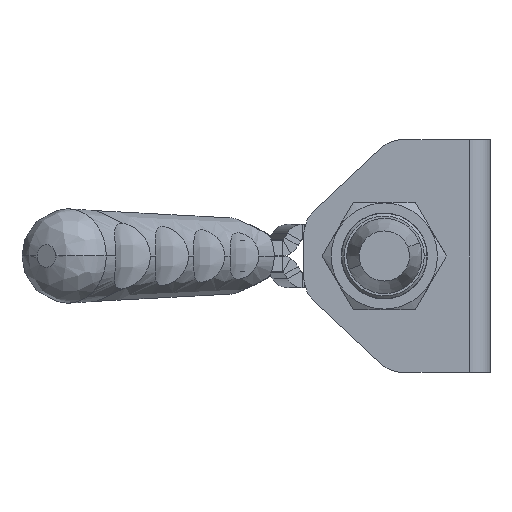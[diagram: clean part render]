
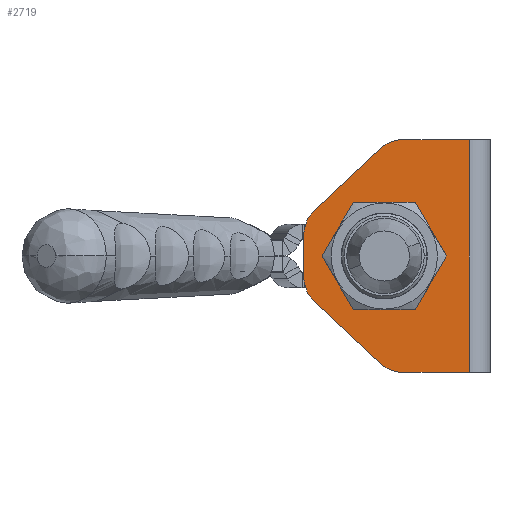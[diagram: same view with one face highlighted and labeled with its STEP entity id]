
A CAD part, left-side view. The second image highlights one B-rep face of the part: STEP entity #2719.
In plain terms, the highlighted planar face has unit normal (-1, 0, 0).
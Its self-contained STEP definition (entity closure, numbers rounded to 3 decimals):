
#95 = CARTESIAN_POINT ( 'NONE',  ( 23.1, 24.495, 0. ) ) ;
#310 = CARTESIAN_POINT ( 'NONE',  ( 23.1, 19.04, 32.5 ) ) ;
#413 = FACE_OUTER_BOUND ( 'NONE', #29150, .T. ) ;
#629 = ORIENTED_EDGE ( 'NONE', *, *, #8376, .T. ) ;
#1167 = ORIENTED_EDGE ( 'NONE', *, *, #22014, .T. ) ;
#1355 = ORIENTED_EDGE ( 'NONE', *, *, #32328, .T. ) ;
#1371 = CIRCLE ( 'NONE', #10941, 10. ) ;
#1624 = DIRECTION ( 'NONE',  ( 0., 1., 0. ) ) ;
#1810 = EDGE_LOOP ( 'NONE', ( #1167, #24160 ) ) ;
#2519 = VERTEX_POINT ( 'NONE', #21604 ) ;
#2719 = ADVANCED_FACE ( 'NONE', ( #413, #5414 ), #25605, .T. ) ;
#2920 = ORIENTED_EDGE ( 'NONE', *, *, #21854, .T. ) ;
#2967 = ORIENTED_EDGE ( 'NONE', *, *, #25104, .T. ) ;
#3250 = CARTESIAN_POINT ( 'NONE',  ( 23.1, 36.995, 0. ) ) ;
#3839 = CARTESIAN_POINT ( 'NONE',  ( 23.1, 24.495, 0. ) ) ;
#4344 = ORIENTED_EDGE ( 'NONE', *, *, #16219, .T. ) ;
#4504 = EDGE_CURVE ( 'NONE', #2519, #6046, #32535, .T. ) ;
#4900 = DIRECTION ( 'NONE',  ( 0., 0., -1. ) ) ;
#4989 = EDGE_CURVE ( 'NONE', #9766, #26091, #17280, .T. ) ;
#5414 = FACE_BOUND ( 'NONE', #1810, .T. ) ;
#5594 = CARTESIAN_POINT ( 'NONE',  ( 23.1, 19.04, -32.5 ) ) ;
#6046 = VERTEX_POINT ( 'NONE', #26337 ) ;
#6074 = ORIENTED_EDGE ( 'NONE', *, *, #19659, .F. ) ;
#6098 = VERTEX_POINT ( 'NONE', #11316 ) ;
#7182 = DIRECTION ( 'NONE',  ( 0., -0.73, -0.684 ) ) ;
#7404 = LINE ( 'NONE', #27761, #22296 ) ;
#7788 = VECTOR ( 'NONE', #7182, 1000. ) ;
#8221 = DIRECTION ( 'NONE',  ( 1., 0., 0. ) ) ;
#8376 = EDGE_CURVE ( 'NONE', #27093, #6098, #7404, .T. ) ;
#8547 = CIRCLE ( 'NONE', #13338, 10. ) ;
#8553 = EDGE_CURVE ( 'NONE', #10276, #16700, #12149, .T. ) ;
#8856 = DIRECTION ( 'NONE',  ( -1., 0., 0. ) ) ;
#9077 = VECTOR ( 'NONE', #29558, 1000. ) ;
#9118 = CARTESIAN_POINT ( 'NONE',  ( 23.1, 36.995, 5.668 ) ) ;
#9286 = CARTESIAN_POINT ( 'NONE',  ( 23.1, 24.495, 0. ) ) ;
#9683 = CARTESIAN_POINT ( 'NONE',  ( 23.1, 43.834, -12.963 ) ) ;
#9766 = VERTEX_POINT ( 'NONE', #29162 ) ;
#10013 = ORIENTED_EDGE ( 'NONE', *, *, #13121, .T. ) ;
#10276 = VERTEX_POINT ( 'NONE', #27390 ) ;
#10886 = LINE ( 'NONE', #16233, #28872 ) ;
#10941 = AXIS2_PLACEMENT_3D ( 'NONE', #13859, #8856, #18378 ) ;
#10998 = VERTEX_POINT ( 'NONE', #26645 ) ;
#11074 = VERTEX_POINT ( 'NONE', #12110 ) ;
#11079 = DIRECTION ( 'NONE',  ( -1., 0., 0. ) ) ;
#11208 = DIRECTION ( 'NONE',  ( 0., 0., -1. ) ) ;
#11316 = CARTESIAN_POINT ( 'NONE',  ( 23.1, 46.995, -5.668 ) ) ;
#11603 = DIRECTION ( 'NONE',  ( 1., 0., 0. ) ) ;
#12103 = DIRECTION ( 'NONE',  ( -1., 0., 0. ) ) ;
#12110 = CARTESIAN_POINT ( 'NONE',  ( 23.1, 0.75, 32.5 ) ) ;
#12149 = CIRCLE ( 'NONE', #15359, 12.5 ) ;
#13121 = EDGE_CURVE ( 'NONE', #29616, #10998, #29254, .T. ) ;
#13338 = AXIS2_PLACEMENT_3D ( 'NONE', #13426, #11079, #20779 ) ;
#13426 = CARTESIAN_POINT ( 'NONE',  ( 23.1, 19.04, 22.5 ) ) ;
#13859 = CARTESIAN_POINT ( 'NONE',  ( 23.1, 36.995, -5.668 ) ) ;
#13950 = ORIENTED_EDGE ( 'NONE', *, *, #4989, .T. ) ;
#15359 = AXIS2_PLACEMENT_3D ( 'NONE', #3839, #8221, #19181 ) ;
#15495 = ORIENTED_EDGE ( 'NONE', *, *, #4504, .T. ) ;
#15538 = CIRCLE ( 'NONE', #19261, 10. ) ;
#15841 = CIRCLE ( 'NONE', #19590, 10. ) ;
#16219 = EDGE_CURVE ( 'NONE', #6046, #29616, #15841, .T. ) ;
#16233 = CARTESIAN_POINT ( 'NONE',  ( 23.1, 0.75, 65.392 ) ) ;
#16334 = VECTOR ( 'NONE', #19948, 1000. ) ;
#16700 = VERTEX_POINT ( 'NONE', #3250 ) ;
#16705 = CARTESIAN_POINT ( 'NONE',  ( 23.1, 46.995, 5.668 ) ) ;
#17280 = LINE ( 'NONE', #24790, #16334 ) ;
#17373 = LINE ( 'NONE', #27383, #9077 ) ;
#17663 = AXIS2_PLACEMENT_3D ( 'NONE', #9286, #11603, #27138 ) ;
#18378 = DIRECTION ( 'NONE',  ( 0., 1., 0. ) ) ;
#19181 = DIRECTION ( 'NONE',  ( 0., 1., 0. ) ) ;
#19261 = AXIS2_PLACEMENT_3D ( 'NONE', #9118, #12103, #1624 ) ;
#19590 = AXIS2_PLACEMENT_3D ( 'NONE', #29628, #29302, #31786 ) ;
#19659 = EDGE_CURVE ( 'NONE', #11074, #10998, #10886, .T. ) ;
#19948 = DIRECTION ( 'NONE',  ( 0., 0.73, -0.684 ) ) ;
#20779 = DIRECTION ( 'NONE',  ( 0., 1., 0. ) ) ;
#20799 = CARTESIAN_POINT ( 'NONE',  ( 23.1, 43.834, 12.963 ) ) ;
#21007 = ORIENTED_EDGE ( 'NONE', *, *, #31796, .T. ) ;
#21604 = CARTESIAN_POINT ( 'NONE',  ( 23.1, 43.834, -12.963 ) ) ;
#21671 = VERTEX_POINT ( 'NONE', #310 ) ;
#21854 = EDGE_CURVE ( 'NONE', #26091, #27093, #15538, .T. ) ;
#22014 = EDGE_CURVE ( 'NONE', #16700, #10276, #22450, .T. ) ;
#22296 = VECTOR ( 'NONE', #4900, 1000. ) ;
#22450 = CIRCLE ( 'NONE', #17663, 12.5 ) ;
#24160 = ORIENTED_EDGE ( 'NONE', *, *, #8553, .T. ) ;
#24244 = CARTESIAN_POINT ( 'NONE',  ( 23.1, 24.495, -32.5 ) ) ;
#24790 = CARTESIAN_POINT ( 'NONE',  ( 23.1, 25.88, 29.795 ) ) ;
#24823 = VECTOR ( 'NONE', #29419, 1000. ) ;
#25104 = EDGE_CURVE ( 'NONE', #6098, #2519, #1371, .T. ) ;
#25605 = PLANE ( 'NONE',  #28505 ) ;
#26091 = VERTEX_POINT ( 'NONE', #20799 ) ;
#26337 = CARTESIAN_POINT ( 'NONE',  ( 23.1, 25.88, -29.795 ) ) ;
#26645 = CARTESIAN_POINT ( 'NONE',  ( 23.1, 0.75, -32.5 ) ) ;
#27093 = VERTEX_POINT ( 'NONE', #16705 ) ;
#27138 = DIRECTION ( 'NONE',  ( 0., 1., 0. ) ) ;
#27383 = CARTESIAN_POINT ( 'NONE',  ( 23.1, 24.495, 32.5 ) ) ;
#27390 = CARTESIAN_POINT ( 'NONE',  ( 23.1, 11.995, 0. ) ) ;
#27761 = CARTESIAN_POINT ( 'NONE',  ( 23.1, 46.995, 0. ) ) ;
#28111 = DIRECTION ( 'NONE',  ( 0., -1., 0. ) ) ;
#28273 = DIRECTION ( 'NONE',  ( -1., 0., 0. ) ) ;
#28505 = AXIS2_PLACEMENT_3D ( 'NONE', #95, #28273, #28111 ) ;
#28872 = VECTOR ( 'NONE', #11208, 1000. ) ;
#29150 = EDGE_LOOP ( 'NONE', ( #629, #2967, #15495, #4344, #10013, #6074, #21007, #1355, #13950, #2920 ) ) ;
#29162 = CARTESIAN_POINT ( 'NONE',  ( 23.1, 25.88, 29.795 ) ) ;
#29254 = LINE ( 'NONE', #24244, #24823 ) ;
#29302 = DIRECTION ( 'NONE',  ( -1., 0., 0. ) ) ;
#29419 = DIRECTION ( 'NONE',  ( 0., -1., 0. ) ) ;
#29558 = DIRECTION ( 'NONE',  ( 0., 1., 0. ) ) ;
#29616 = VERTEX_POINT ( 'NONE', #5594 ) ;
#29628 = CARTESIAN_POINT ( 'NONE',  ( 23.1, 19.04, -22.5 ) ) ;
#31786 = DIRECTION ( 'NONE',  ( 0., 1., 0. ) ) ;
#31796 = EDGE_CURVE ( 'NONE', #11074, #21671, #17373, .T. ) ;
#32328 = EDGE_CURVE ( 'NONE', #21671, #9766, #8547, .T. ) ;
#32535 = LINE ( 'NONE', #9683, #7788 ) ;
